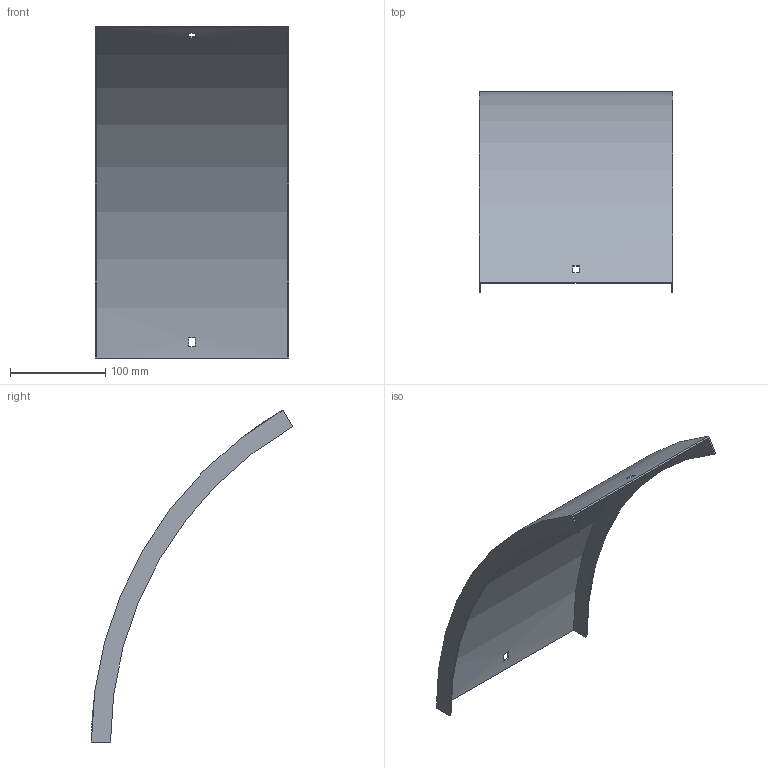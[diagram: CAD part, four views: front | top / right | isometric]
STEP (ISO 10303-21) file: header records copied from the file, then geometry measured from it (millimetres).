
FILE_DESCRIPTION (( 'STEP AP214' ), '1' );
FILE_NAME ('B2_41N3D200.step', '2025-02-21T10:41:35', ( '' ), ( '' ), 'SwSTEP 2.0', 'SolidWorks 2023', '' );
FILE_SCHEMA (( 'AUTOMOTIVE_DESIGN' ));
Length unit declared in the file: millimetre
Products named in the file (1): B2_41N3D200
Bounding box: 203 x 210.75 x 347.71 mm (x, y, z)
Volume: 150322.3 mm3; surface area: 202443.7 mm2
Topology: 1 solids, 1 shells, 18 faces, 48 edges, 32 vertices
Faces by surface type: plane 14, cylinder 4
Entity records: 599 total; most frequent: DIRECTION 102, CARTESIAN_POINT 99, ORIENTED_EDGE 96, EDGE_CURVE 48, AXIS2_PLACEMENT_3D 35, VERTEX_POINT 32, LINE 32, VECTOR 32
